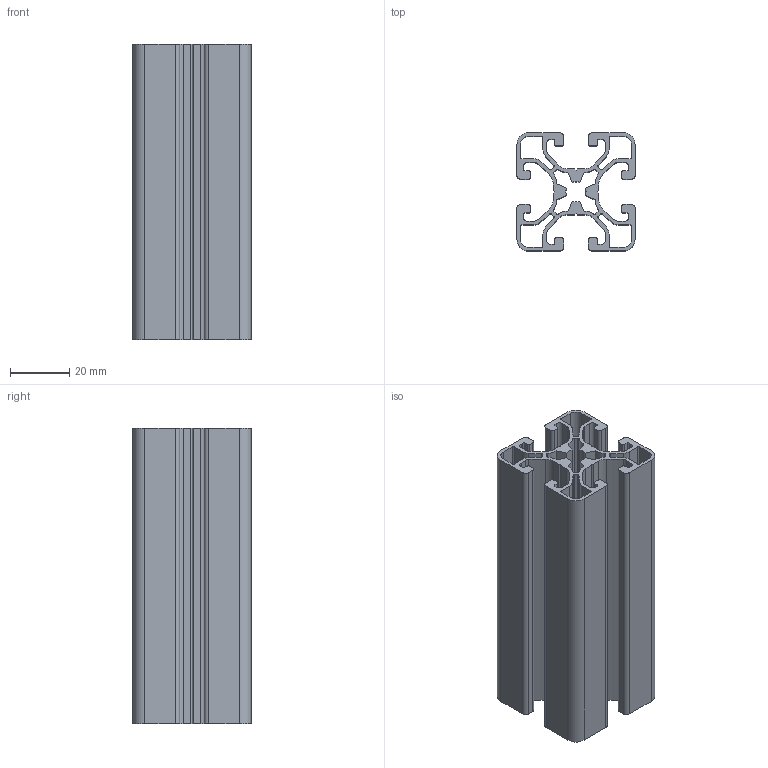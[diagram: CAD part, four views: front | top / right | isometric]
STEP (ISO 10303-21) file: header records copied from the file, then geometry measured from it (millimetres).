
FILE_DESCRIPTION (( 'STEP AP203' ), '1' );
FILE_NAME ('LIMA-4040L-8.STEP', '2018-03-15T12:33:52', ( '' ), ( '' ), 'SwSTEP 2.0', 'SolidWorks 2013', '' );
FILE_SCHEMA (( 'CONFIG_CONTROL_DESIGN' ));
Length unit declared in the file: millimetre
Products named in the file (1): LIMA-4040L-8
Bounding box: 40 x 40 x 100 mm (x, y, z)
Volume: 47933.5 mm3; surface area: 57912.2 mm2
Topology: 1 solids, 1 shells, 235 faces, 699 edges, 466 vertices
Faces by surface type: cylinder 129, plane 106
Entity records: 8068 total; most frequent: DIRECTION 1429, CARTESIAN_POINT 1401, ORIENTED_EDGE 1398, EDGE_CURVE 699, AXIS2_PLACEMENT_3D 494, VERTEX_POINT 466, VECTOR 441, LINE 441
